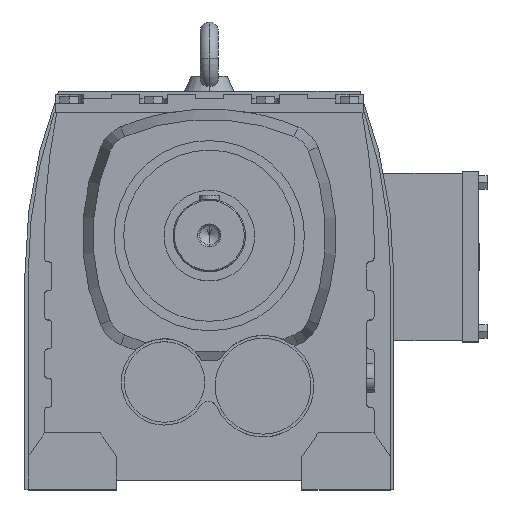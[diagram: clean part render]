
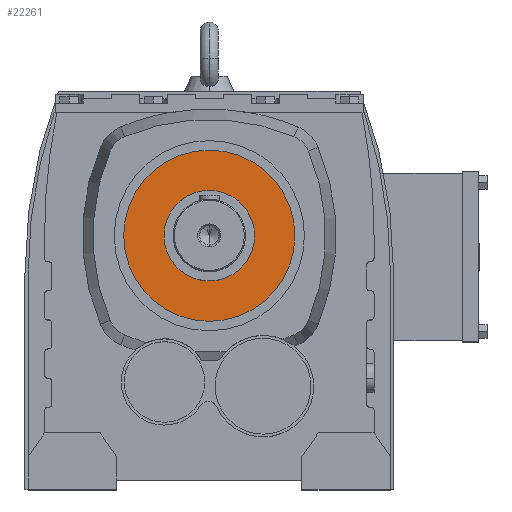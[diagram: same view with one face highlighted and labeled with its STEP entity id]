
A CAD part, top view. The second image highlights one B-rep face of the part: STEP entity #22261.
In plain terms, the highlighted planar face has unit normal (0, 0, 1).
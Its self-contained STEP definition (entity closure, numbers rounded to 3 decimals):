
#21174 = CYLINDRICAL_SURFACE('',#21175,106.313);
#21175 = AXIS2_PLACEMENT_3D('',#21176,#21177,#21178);
#21176 = CARTESIAN_POINT('',(0.,25.1,589.));
#21177 = DIRECTION('',(0.,0.,1.));
#21178 = DIRECTION('',(0.,-1.,0.));
#21204 = CYLINDRICAL_SURFACE('',#21205,106.313);
#21205 = AXIS2_PLACEMENT_3D('',#21206,#21207,#21208);
#21206 = CARTESIAN_POINT('',(0.,25.1,589.));
#21207 = DIRECTION('',(0.,0.,1.));
#21208 = DIRECTION('',(0.,-1.,0.));
#22022 = EDGE_CURVE('',#22023,#22025,#22027,.T.);
#22023 = VERTEX_POINT('',#22024);
#22024 = CARTESIAN_POINT('',(0.,-81.213,402.));
#22025 = VERTEX_POINT('',#22026);
#22026 = CARTESIAN_POINT('',(0.,131.413,402.));
#22027 = SURFACE_CURVE('',#22028,(#22033,#22039),.PCURVE_S1.);
#22028 = CIRCLE('',#22029,106.313);
#22029 = AXIS2_PLACEMENT_3D('',#22030,#22031,#22032);
#22030 = CARTESIAN_POINT('',(0.,25.1,402.));
#22031 = DIRECTION('',(0.,0.,-1.));
#22032 = DIRECTION('',(-1.,0.,0.));
#22033 = PCURVE('',#21204,#22034);
#22034 = DEFINITIONAL_REPRESENTATION('',(#22035),#22038);
#22035 = B_SPLINE_CURVE_WITH_KNOTS('',1,(#22036,#22037),.UNSPECIFIED.,
  .F.,.F.,(2,2),(4.712,7.854),
  .PIECEWISE_BEZIER_KNOTS.);
#22036 = CARTESIAN_POINT('',(6.283,-187.));
#22037 = CARTESIAN_POINT('',(3.142,-187.));
#22038 = ( GEOMETRIC_REPRESENTATION_CONTEXT(2) 
PARAMETRIC_REPRESENTATION_CONTEXT() REPRESENTATION_CONTEXT('2D SPACE',''
  ) );
#22039 = PCURVE('',#22040,#22045);
#22040 = PLANE('',#22041);
#22041 = AXIS2_PLACEMENT_3D('',#22042,#22043,#22044);
#22042 = CARTESIAN_POINT('',(-45.86,7.96,402.));
#22043 = DIRECTION('',(0.,0.,-1.));
#22044 = DIRECTION('',(-1.,0.,0.));
#22045 = DEFINITIONAL_REPRESENTATION('',(#22046),#22050);
#22046 = CIRCLE('',#22047,106.313);
#22047 = AXIS2_PLACEMENT_2D('',#22048,#22049);
#22048 = CARTESIAN_POINT('',(-45.86,17.14));
#22049 = DIRECTION('',(1.,0.));
#22050 = ( GEOMETRIC_REPRESENTATION_CONTEXT(2) 
PARAMETRIC_REPRESENTATION_CONTEXT() REPRESENTATION_CONTEXT('2D SPACE',''
  ) );
#22097 = EDGE_CURVE('',#22025,#22023,#22098,.T.);
#22098 = SURFACE_CURVE('',#22099,(#22104,#22110),.PCURVE_S1.);
#22099 = CIRCLE('',#22100,106.313);
#22100 = AXIS2_PLACEMENT_3D('',#22101,#22102,#22103);
#22101 = CARTESIAN_POINT('',(0.,25.1,402.));
#22102 = DIRECTION('',(0.,0.,-1.));
#22103 = DIRECTION('',(-1.,0.,0.));
#22104 = PCURVE('',#21174,#22105);
#22105 = DEFINITIONAL_REPRESENTATION('',(#22106),#22109);
#22106 = B_SPLINE_CURVE_WITH_KNOTS('',1,(#22107,#22108),.UNSPECIFIED.,
  .F.,.F.,(2,2),(1.571,4.712),
  .PIECEWISE_BEZIER_KNOTS.);
#22107 = CARTESIAN_POINT('',(3.142,-187.));
#22108 = CARTESIAN_POINT('',(0.,-187.));
#22109 = ( GEOMETRIC_REPRESENTATION_CONTEXT(2) 
PARAMETRIC_REPRESENTATION_CONTEXT() REPRESENTATION_CONTEXT('2D SPACE',''
  ) );
#22110 = PCURVE('',#22040,#22111);
#22111 = DEFINITIONAL_REPRESENTATION('',(#22112),#22116);
#22112 = CIRCLE('',#22113,106.313);
#22113 = AXIS2_PLACEMENT_2D('',#22114,#22115);
#22114 = CARTESIAN_POINT('',(-45.86,17.14));
#22115 = DIRECTION('',(1.,0.));
#22116 = ( GEOMETRIC_REPRESENTATION_CONTEXT(2) 
PARAMETRIC_REPRESENTATION_CONTEXT() REPRESENTATION_CONTEXT('2D SPACE',''
  ) );
#22261 = ADVANCED_FACE('',(#22262,#22266),#22040,.F.);
#22262 = FACE_BOUND('',#22263,.T.);
#22263 = EDGE_LOOP('',(#22264,#22265));
#22264 = ORIENTED_EDGE('',*,*,#22022,.F.);
#22265 = ORIENTED_EDGE('',*,*,#22097,.F.);
#22266 = FACE_BOUND('',#22267,.T.);
#22267 = EDGE_LOOP('',(#22268,#22302));
#22268 = ORIENTED_EDGE('',*,*,#22269,.F.);
#22269 = EDGE_CURVE('',#22270,#22272,#22274,.T.);
#22270 = VERTEX_POINT('',#22271);
#22271 = CARTESIAN_POINT('',(0.,-31.15,402.));
#22272 = VERTEX_POINT('',#22273);
#22273 = CARTESIAN_POINT('',(0.,81.35,402.));
#22274 = SURFACE_CURVE('',#22275,(#22280,#22291),.PCURVE_S1.);
#22275 = CIRCLE('',#22276,56.25);
#22276 = AXIS2_PLACEMENT_3D('',#22277,#22278,#22279);
#22277 = CARTESIAN_POINT('',(0.,25.1,402.));
#22278 = DIRECTION('',(0.,0.,1.));
#22279 = DIRECTION('',(-1.,0.,0.));
#22280 = PCURVE('',#22040,#22281);
#22281 = DEFINITIONAL_REPRESENTATION('',(#22282),#22290);
#22282 = ( BOUNDED_CURVE() B_SPLINE_CURVE(2,(#22283,#22284,#22285,#22286
    ,#22287,#22288,#22289),.UNSPECIFIED.,.F.,.F.) 
B_SPLINE_CURVE_WITH_KNOTS((1,2,2,2,2,1),(-2.094,0.,
    2.094,4.189,6.283,8.378),
.UNSPECIFIED.) CURVE() GEOMETRIC_REPRESENTATION_ITEM() 
RATIONAL_B_SPLINE_CURVE((1.,0.5,1.,0.5,1.,0.5,1.)) REPRESENTATION_ITEM(
  '') );
#22283 = CARTESIAN_POINT('',(10.39,17.14));
#22284 = CARTESIAN_POINT('',(10.39,-80.287));
#22285 = CARTESIAN_POINT('',(-73.985,-31.574));
#22286 = CARTESIAN_POINT('',(-158.36,17.14));
#22287 = CARTESIAN_POINT('',(-73.985,65.854));
#22288 = CARTESIAN_POINT('',(10.39,114.568));
#22289 = CARTESIAN_POINT('',(10.39,17.14));
#22290 = ( GEOMETRIC_REPRESENTATION_CONTEXT(2) 
PARAMETRIC_REPRESENTATION_CONTEXT() REPRESENTATION_CONTEXT('2D SPACE',''
  ) );
#22291 = PCURVE('',#22292,#22297);
#22292 = CYLINDRICAL_SURFACE('',#22293,56.25);
#22293 = AXIS2_PLACEMENT_3D('',#22294,#22295,#22296);
#22294 = CARTESIAN_POINT('',(0.,25.1,589.));
#22295 = DIRECTION('',(0.,0.,1.));
#22296 = DIRECTION('',(0.,-1.,0.));
#22297 = DEFINITIONAL_REPRESENTATION('',(#22298),#22301);
#22298 = B_SPLINE_CURVE_WITH_KNOTS('',1,(#22299,#22300),.UNSPECIFIED.,
  .F.,.F.,(2,2),(1.571,4.712),
  .PIECEWISE_BEZIER_KNOTS.);
#22299 = CARTESIAN_POINT('',(0.,-187.));
#22300 = CARTESIAN_POINT('',(3.142,-187.));
#22301 = ( GEOMETRIC_REPRESENTATION_CONTEXT(2) 
PARAMETRIC_REPRESENTATION_CONTEXT() REPRESENTATION_CONTEXT('2D SPACE',''
  ) );
#22302 = ORIENTED_EDGE('',*,*,#22303,.F.);
#22303 = EDGE_CURVE('',#22272,#22270,#22304,.T.);
#22304 = SURFACE_CURVE('',#22305,(#22310,#22321),.PCURVE_S1.);
#22305 = CIRCLE('',#22306,56.25);
#22306 = AXIS2_PLACEMENT_3D('',#22307,#22308,#22309);
#22307 = CARTESIAN_POINT('',(0.,25.1,402.));
#22308 = DIRECTION('',(0.,0.,1.));
#22309 = DIRECTION('',(-1.,0.,0.));
#22310 = PCURVE('',#22040,#22311);
#22311 = DEFINITIONAL_REPRESENTATION('',(#22312),#22320);
#22312 = ( BOUNDED_CURVE() B_SPLINE_CURVE(2,(#22313,#22314,#22315,#22316
    ,#22317,#22318,#22319),.UNSPECIFIED.,.F.,.F.) 
B_SPLINE_CURVE_WITH_KNOTS((1,2,2,2,2,1),(-2.094,0.,
    2.094,4.189,6.283,8.378),
.UNSPECIFIED.) CURVE() GEOMETRIC_REPRESENTATION_ITEM() 
RATIONAL_B_SPLINE_CURVE((1.,0.5,1.,0.5,1.,0.5,1.)) REPRESENTATION_ITEM(
  '') );
#22313 = CARTESIAN_POINT('',(10.39,17.14));
#22314 = CARTESIAN_POINT('',(10.39,-80.287));
#22315 = CARTESIAN_POINT('',(-73.985,-31.574));
#22316 = CARTESIAN_POINT('',(-158.36,17.14));
#22317 = CARTESIAN_POINT('',(-73.985,65.854));
#22318 = CARTESIAN_POINT('',(10.39,114.568));
#22319 = CARTESIAN_POINT('',(10.39,17.14));
#22320 = ( GEOMETRIC_REPRESENTATION_CONTEXT(2) 
PARAMETRIC_REPRESENTATION_CONTEXT() REPRESENTATION_CONTEXT('2D SPACE',''
  ) );
#22321 = PCURVE('',#22322,#22327);
#22322 = CYLINDRICAL_SURFACE('',#22323,56.25);
#22323 = AXIS2_PLACEMENT_3D('',#22324,#22325,#22326);
#22324 = CARTESIAN_POINT('',(0.,25.1,589.));
#22325 = DIRECTION('',(0.,0.,1.));
#22326 = DIRECTION('',(0.,-1.,0.));
#22327 = DEFINITIONAL_REPRESENTATION('',(#22328),#22331);
#22328 = B_SPLINE_CURVE_WITH_KNOTS('',1,(#22329,#22330),.UNSPECIFIED.,
  .F.,.F.,(2,2),(4.712,7.854),
  .PIECEWISE_BEZIER_KNOTS.);
#22329 = CARTESIAN_POINT('',(3.142,-187.));
#22330 = CARTESIAN_POINT('',(6.283,-187.));
#22331 = ( GEOMETRIC_REPRESENTATION_CONTEXT(2) 
PARAMETRIC_REPRESENTATION_CONTEXT() REPRESENTATION_CONTEXT('2D SPACE',''
  ) );
